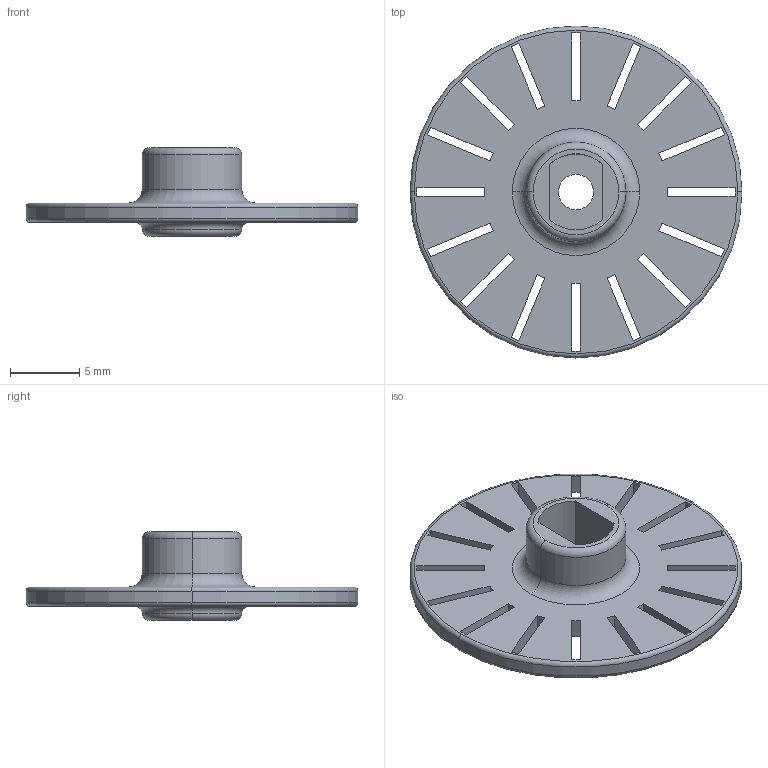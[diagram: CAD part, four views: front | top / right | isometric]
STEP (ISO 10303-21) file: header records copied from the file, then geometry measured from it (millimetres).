
FILE_DESCRIPTION (( 'STEP AP214' ), '1' );
FILE_NAME ('roue_codeuse_16_v4.STEP', '2024-07-29T17:48:31', ( '' ), ( '' ), 'SwSTEP 2.0', 'SolidWorks 2022', '' );
FILE_SCHEMA (( 'AUTOMOTIVE_DESIGN' ));
Length unit declared in the file: millimetre
Products named in the file (1): roue_codeuse_16_v4
Bounding box: 24 x 24 x 6.4 mm (x, y, z)
Volume: 655.6 mm3; surface area: 1323.4 mm2
Topology: 1 solids, 1 shells, 91 faces, 248 edges, 162 vertices
Faces by surface type: plane 71, torus 12, cylinder 8
Entity records: 2946 total; most frequent: CARTESIAN_POINT 502, ORIENTED_EDGE 496, DIRECTION 474, EDGE_CURVE 248, LINE 206, VECTOR 206, VERTEX_POINT 162, AXIS2_PLACEMENT_3D 134
